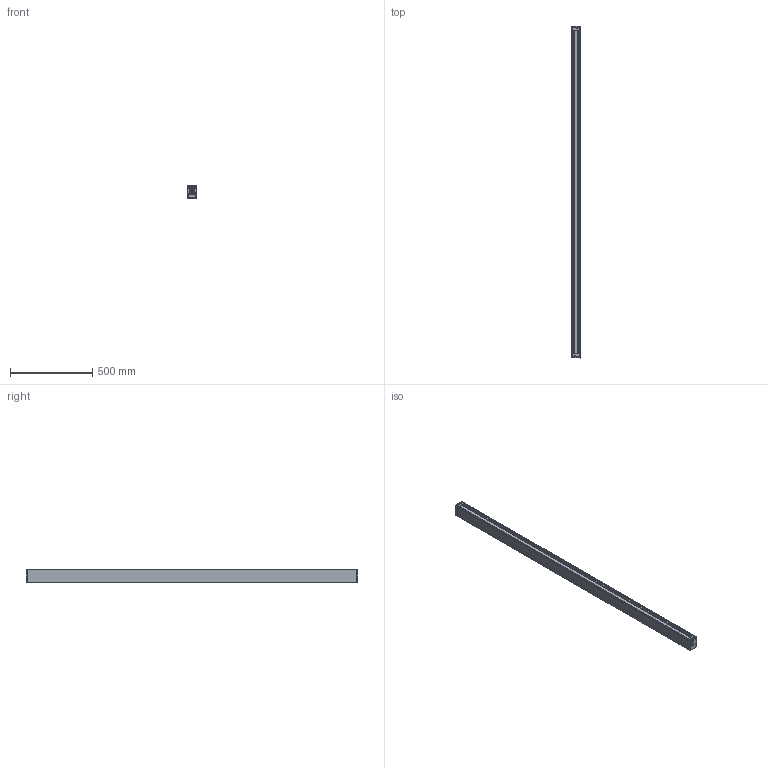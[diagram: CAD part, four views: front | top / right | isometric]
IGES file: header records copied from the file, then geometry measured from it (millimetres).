
Global section: file name: C:\Users\info\Desktop\CRIS\05. NEW PRODUCT\LUMINARIA KISS\3D para web\KISS L200 - IGS.igs; native system: Rhinoceros ( Feb 27 2019 ); preprocessor: Trout Lake IGES 012 Feb 27 2019; date: 260427.135834; units: millimetre
Bounding box: 55 x 2013.48 x 75 mm (x, y, z)
Surface area: 1699167.4 mm2 (no closed solid volume)
Topology: 0 solids, 0 shells, 2006 faces, 17994 edges, 17988 vertices
Faces by surface type: bspline 2006
